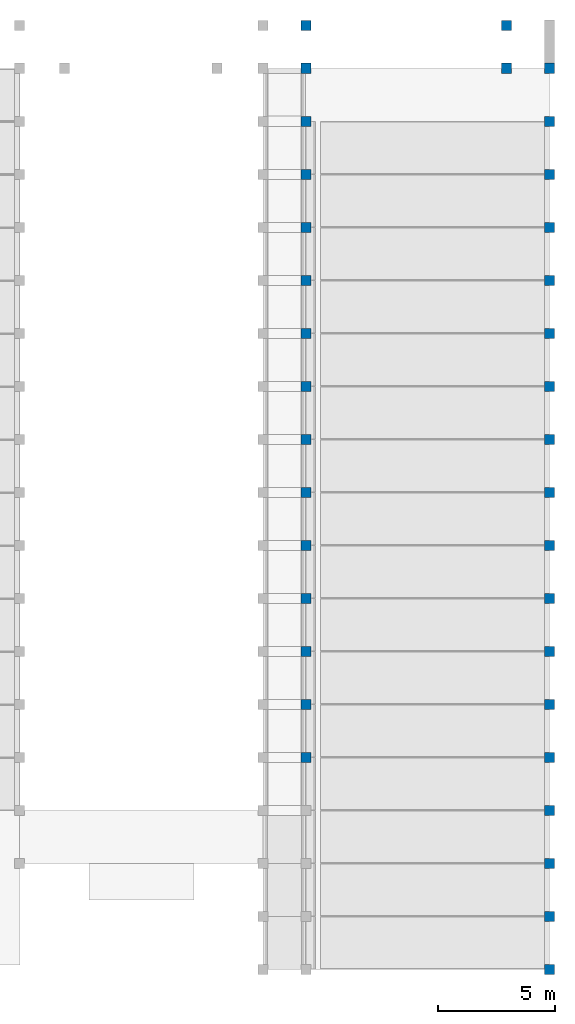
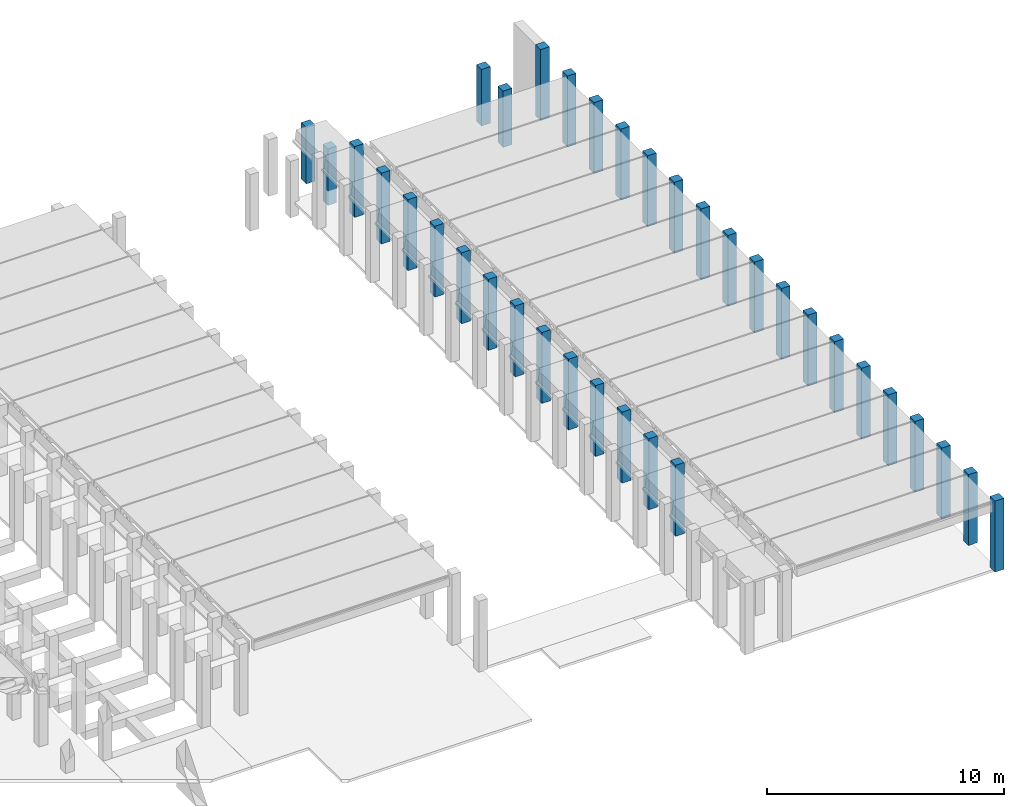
# One storey, part 2 of 18: 35 columns.
"""IFC2X3 building model written with IfcOpenShell, lengths in millimetres."""

from ifc_helpers import new_model, entity, si_unit, converted_unit, derived_unit, direction, frame, origin, origin_2d_with_axis, place, context, subcontext, project, spatial, rectangle, extrude, source, transform, mapped, material, type_object, type_shapes, element, save


model = new_model("IFC2X3")

# Units and contexts
model_context = context("Model", 3, precision=0.01, world=origin(), true_north=direction((6.12303176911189e-17, 1.0)))
body_context = subcontext(model_context, "Body", "Model", "MODEL_VIEW")
ifc_project = project(units=[si_unit("LENGTHUNIT", "METRE", prefix="MILLI"), si_unit("AREAUNIT", "SQUARE_METRE"), si_unit("VOLUMEUNIT", "CUBIC_METRE"), converted_unit("PLANEANGLEUNIT", "DEGREE", entity("IfcRatioMeasure", 0.0174532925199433), si_unit("PLANEANGLEUNIT", "RADIAN"), dimensions=[0, 0, 0, 0, 0, 0, 0]), si_unit("MASSUNIT", "GRAM", prefix="KILO"), derived_unit("MASSDENSITYUNIT", [(si_unit("MASSUNIT", "GRAM", prefix="KILO"), 1), (si_unit("LENGTHUNIT", "METRE"), -3)]), derived_unit("MOMENTOFINERTIAUNIT", [(si_unit("LENGTHUNIT", "METRE"), 4)]), si_unit("TIMEUNIT", "SECOND"), si_unit("FREQUENCYUNIT", "HERTZ"), si_unit("THERMODYNAMICTEMPERATUREUNIT", "DEGREE_CELSIUS"), derived_unit("THERMALTRANSMITTANCEUNIT", [(si_unit("MASSUNIT", "GRAM", prefix="KILO"), 1), (si_unit("THERMODYNAMICTEMPERATUREUNIT", "KELVIN"), -1), (si_unit("TIMEUNIT", "SECOND"), -3)]), derived_unit("VOLUMETRICFLOWRATEUNIT", [(si_unit("LENGTHUNIT", "METRE"), 3), (si_unit("TIMEUNIT", "SECOND"), -1)]), si_unit("ELECTRICCURRENTUNIT", "AMPERE"), si_unit("ELECTRICVOLTAGEUNIT", "VOLT"), si_unit("POWERUNIT", "WATT"), si_unit("FORCEUNIT", "NEWTON", prefix="KILO"), si_unit("ILLUMINANCEUNIT", "LUX"), si_unit("LUMINOUSFLUXUNIT", "LUMEN"), si_unit("LUMINOUSINTENSITYUNIT", "CANDELA"), derived_unit("USERDEFINED", [(si_unit("MASSUNIT", "GRAM", prefix="KILO"), -1), (si_unit("LENGTHUNIT", "METRE"), -2), (si_unit("TIMEUNIT", "SECOND"), 3), (si_unit("LUMINOUSFLUXUNIT", "LUMEN"), 1)]), derived_unit("LINEARVELOCITYUNIT", [(si_unit("LENGTHUNIT", "METRE"), 1), (si_unit("TIMEUNIT", "SECOND"), -1)]), si_unit("PRESSUREUNIT", "PASCAL"), derived_unit("USERDEFINED", [(si_unit("LENGTHUNIT", "METRE"), -2), (si_unit("MASSUNIT", "GRAM", prefix="KILO"), 1), (si_unit("TIMEUNIT", "SECOND"), -2)]), derived_unit("LINEARFORCEUNIT", [(si_unit("MASSUNIT", "GRAM", prefix="KILO"), 1), (si_unit("LENGTHUNIT", "METRE"), 1), (si_unit("TIMEUNIT", "SECOND"), -2), (si_unit("LENGTHUNIT", "METRE"), -1)]), derived_unit("PLANARFORCEUNIT", [(si_unit("MASSUNIT", "GRAM", prefix="KILO"), 1), (si_unit("LENGTHUNIT", "METRE"), 1), (si_unit("TIMEUNIT", "SECOND"), -2), (si_unit("LENGTHUNIT", "METRE"), -2)])], contexts=[model_context])

# Site, building, storey
site_placement = place(None, frame((10627.5135316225, 21939.0796949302, 0.0)))
site = spatial("IfcSite", under=ifc_project, at=site_placement, Name="Default", CompositionType="ELEMENT")
building_placement = place(site_placement, origin())
building = spatial("IfcBuilding", under=site, at=building_placement, CompositionType="ELEMENT")
storey_placement = place(building_placement, frame((0.0, 0.0, 3660.0)))
storey = spatial("IfcBuildingStorey", under=building, at=storey_placement, Name="R+1", CompositionType="ELEMENT", Elevation=3660.0)

# Columns
ifc_material = material(Name="Concrete, Precast Smooth, Light Grey")
column_type_1 = type_object("IfcColumnType", Name="M_Precast-Square Column:430x430", PredefinedType="COLUMN", material=ifc_material)
shared_shape_1 = source(origin(), body_context, "Body", "SweptSolid", [
    extrude(rectangle(XDim=430.0, YDim=430.0, at=origin_2d_with_axis()), frame((0.0, 0.0, 2910.0), z_axis=(0.0, 0.0, 1.0), x_axis=(0.0, -1.0, 0.0)), (0.0, 0.0, 1.0), 2910.0),
])
type_shapes(column_type_1, [shared_shape_1])
column_placement = place(storey_placement, frame((53402.4864683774, 16480.9203050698, -3660.0), z_axis=(0.0, 0.0, 1.0), x_axis=(-1.0, 0.0, 0.0)))
element("IfcColumn", 1, at=column_placement, inside=storey, type_object=column_type_1, material=ifc_material, Name="M_Precast-Square Column:430x430", ObjectType="M_Precast-Square Column:430x430", context=body_context, shape_type="MappedRepresentation", body=[
    mapped(shared_shape_1, transform((0.0, 0.0, 0.0), scale=1.0)),
])
for number, where, name in (
    (2, (53402.4864683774, 18310.9203050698, -3660.0), "M_Precast-Square Column:430x430"),
    (3, (61952.4864683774, 16480.9203050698, -3660.0), "M_Precast-Square Column:430x430"),
    (4, (61952.4864683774, 18310.9203050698, -3660.0), "M_Precast-Square Column:430x430"),
):
    element("IfcColumn", number, at=place(storey_placement, frame(where)), inside=storey, type_object=column_type_1, material=ifc_material, Name=name, ObjectType="M_Precast-Square Column:430x430", context=body_context, shape_type="MappedRepresentation", body=[
        mapped(shared_shape_1, transform((0.0, 0.0, 0.0), scale=1.0)),
    ])
column_type_2 = type_object("IfcColumnType", Name="M_Precast-Square Column:430x430 Main floor", PredefinedType="COLUMN", material=ifc_material)
shared_shape_2 = source(origin(), body_context, "Body", "SweptSolid", [
    extrude(rectangle(XDim=430.0, YDim=430.0, at=origin_2d_with_axis()), frame((0.0, 0.0, 3660.0), z_axis=(0.0, 0.0, 1.0), x_axis=(0.0, -1.0, 0.0)), (0.0, 0.0, 1.0), 3660.0),
])
type_shapes(column_type_2, [shared_shape_2])
for number, where, name in (
    (5, (63782.4864683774, 14220.9203050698, -3660.0), "M_Precast-Square Column:430x430 Main floor"),
    (6, (63782.4864683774, 11960.9203050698, -3660.0), "M_Precast-Square Column:430x430 Main floor"),
    (7, (53402.4864683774, 14220.9203050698, -3660.0), "M_Precast-Square Column:430x430 Main floor"),
    (8, (53402.4864683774, 11960.9203050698, -3660.0), "M_Precast-Square Column:430x430 Main floor"),
    (9, (53402.4864683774, 9700.92030506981, -3660.0), "M_Precast-Square Column:430x430 Main floor"),
    (10, (63782.4864683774, 9700.92030506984, -3660.0), "M_Precast-Square Column:430x430 Main floor"),
    (11, (53402.4864683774, 7440.92030506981, -3660.0), "M_Precast-Square Column:430x430 Main floor"),
    (12, (63782.4864683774, 7440.92030506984, -3660.0), "M_Precast-Square Column:430x430 Main floor"),
    (13, (53402.4864683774, 5180.92030506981, -3660.0), "M_Precast-Square Column:430x430 Main floor"),
    (14, (63782.4864683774, 5180.92030506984, -3660.0), "M_Precast-Square Column:430x430 Main floor"),
    (15, (53402.4864683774, 2920.92030506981, -3660.0), "M_Precast-Square Column:430x430 Main floor"),
    (16, (63782.4864683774, 2920.92030506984, -3660.0), "M_Precast-Square Column:430x430 Main floor"),
    (17, (53402.4864683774, 660.920305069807, -3660.0), "M_Precast-Square Column:430x430 Main floor"),
    (18, (63782.4864683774, 660.92030506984, -3660.0), "M_Precast-Square Column:430x430 Main floor"),
    (19, (53402.4864683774, -1599.07969493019, -3660.0), "M_Precast-Square Column:430x430 Main floor"),
    (20, (63782.4864683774, -1599.07969493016, -3660.0), "M_Precast-Square Column:430x430 Main floor"),
    (21, (53402.4864683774, -3859.07969493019, -3660.0), "M_Precast-Square Column:430x430 Main floor"),
    (22, (63782.4864683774, -3859.07969493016, -3660.0), "M_Precast-Square Column:430x430 Main floor"),
    (23, (53402.4864683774, -6119.07969493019, -3660.0), "M_Precast-Square Column:430x430 Main floor"),
    (24, (63782.4864683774, -6119.07969493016, -3660.0), "M_Precast-Square Column:430x430 Main floor"),
    (25, (53402.4864683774, -8379.07969493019, -3660.0), "M_Precast-Square Column:430x430 Main floor"),
    (26, (63782.4864683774, -8379.07969493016, -3660.0), "M_Precast-Square Column:430x430 Main floor"),
    (27, (53402.4864683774, -10639.0796949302, -3660.0), "M_Precast-Square Column:430x430 Main floor"),
    (28, (63782.4864683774, -10639.0796949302, -3660.0), "M_Precast-Square Column:430x430 Main floor"),
    (29, (53402.4864683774, -12899.0796949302, -3660.0), "M_Precast-Square Column:430x430 Main floor"),
    (30, (63782.4864683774, -12899.0796949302, -3660.0), "M_Precast-Square Column:430x430 Main floor"),
    (31, (63782.4864683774, -15159.0796949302, -3660.0), "M_Precast-Square Column:430x430 Main floor"),
    (32, (63782.4864683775, -21939.0796949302, -3660.0), "M_Precast-Square Column:430x430 Main floor"),
    (33, (63782.4864683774, -17419.0796949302, -3660.0), "M_Precast-Square Column:430x430 Main floor"),
    (34, (63782.4864683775, -19679.0796949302, -3660.0), "M_Precast-Square Column:430x430 Main floor"),
    (35, (63782.4864683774, 16480.9203050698, -3660.0), "M_Precast-Square Column:430x430 Main floor"),
):
    element("IfcColumn", number, at=place(storey_placement, frame(where)), inside=storey, type_object=column_type_2, material=ifc_material, Name=name, ObjectType="M_Precast-Square Column:430x430 Main floor", context=body_context, shape_type="MappedRepresentation", body=[
        mapped(shared_shape_2, transform((0.0, 0.0, 0.0), scale=1.0)),
    ])

save(model, "model.ifc")
